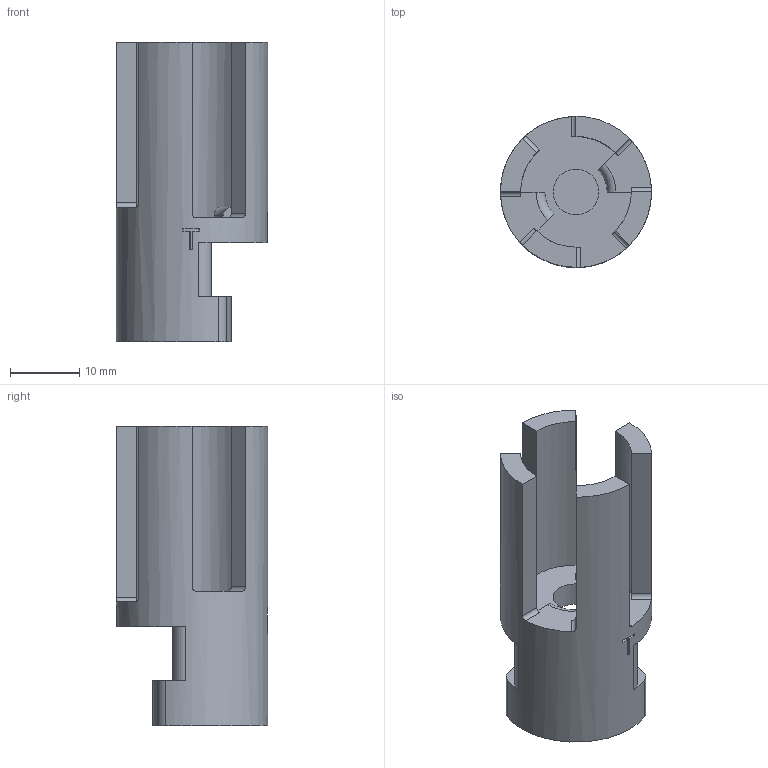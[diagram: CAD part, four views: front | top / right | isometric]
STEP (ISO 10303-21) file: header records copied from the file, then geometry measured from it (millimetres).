
FILE_DESCRIPTION(/* description */ (''),/* implementation_level */ '2;1');
FILE_NAME(/* name */ 'D:\Downloads\Project-ButWhatAbout-ECM-9x19-Barrel-DIY-V1-Package (3)\Revised Components\asdf\ECM CAD\STEP\Throating End Pilot Inch (0.250in).stp',/* time_stamp */ '2021-02-15T01:55:54-06:00',/* author */ ('johne'),/* organization */ (''),/* preprocessor_version */ 'ST-DEVELOPER v18',/* originating_system */ 'Autodesk Inventor 2020',/* authorisation */ '');
FILE_SCHEMA (('AUTOMOTIVE_DESIGN { 1 0 10303 214 3 1 1 }'));
Length unit declared in the file: millimetre
Products named in the file (1): Throating Tool 250 rod
Bounding box: 21.84 x 21.84 x 43.36 mm (x, y, z)
Volume: 5744.2 mm3; surface area: 4052.7 mm2
Topology: 1 solids, 1 shells, 55 faces, 156 edges, 104 vertices
Faces by surface type: plane 31, cylinder 22, torus 2
Full cylindrical faces by diameter (mm): 6.604 x1, 21.844 x1
Entity records: 1963 total; most frequent: CARTESIAN_POINT 460, ORIENTED_EDGE 312, DIRECTION 308, EDGE_CURVE 156, AXIS2_PLACEMENT_3D 112, VERTEX_POINT 104, LINE 84, VECTOR 84
